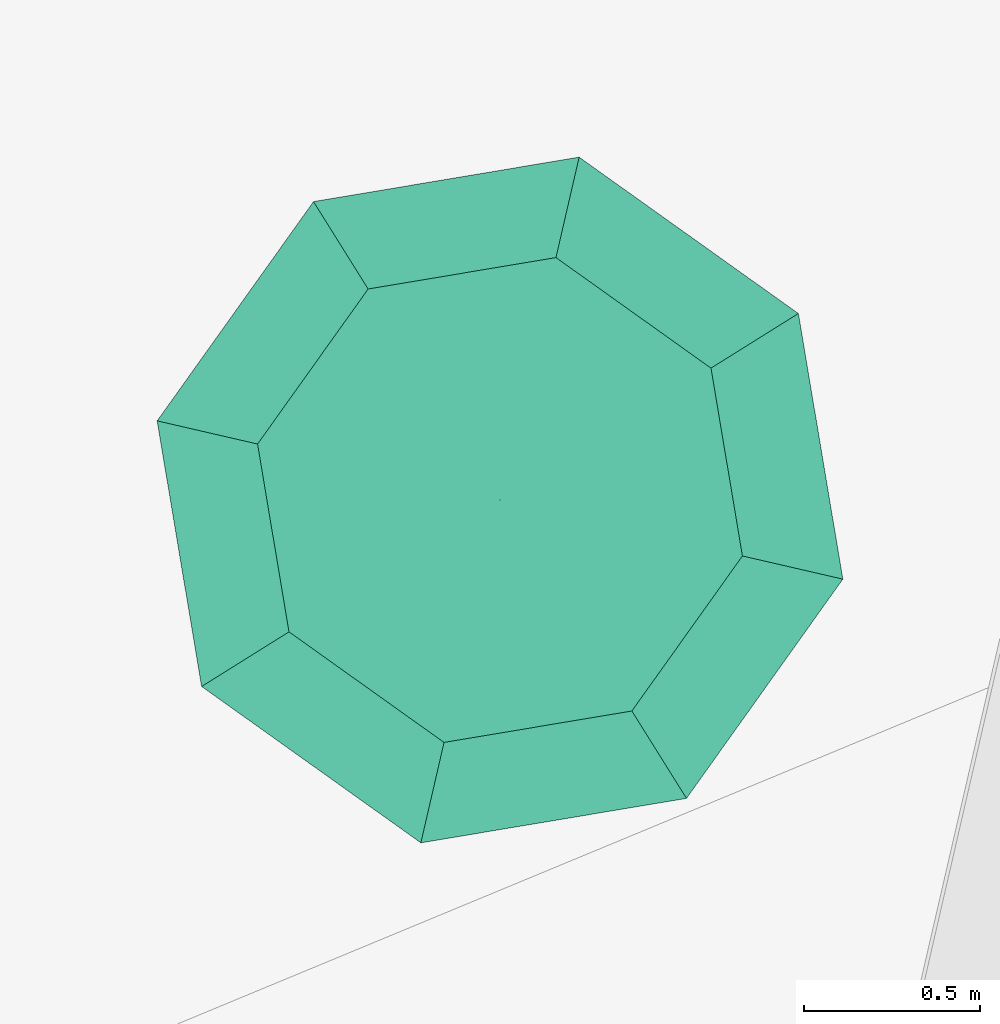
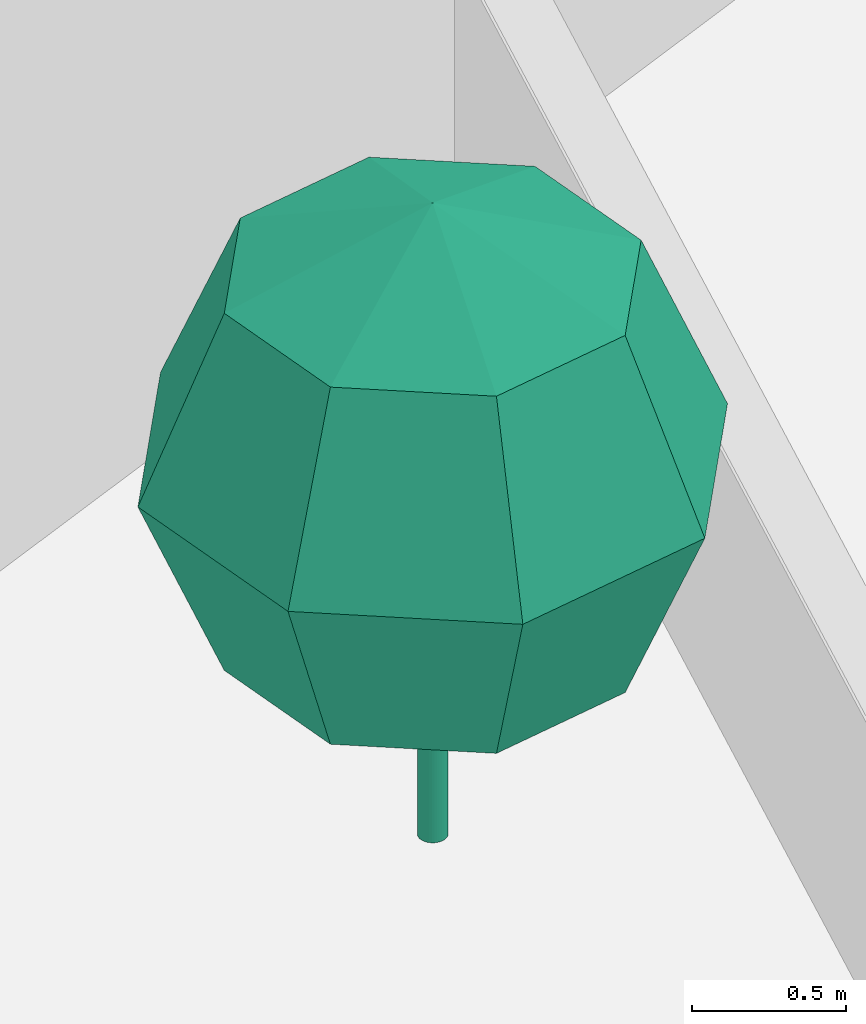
# One storey, part 100 of 119: 1 flow terminal.
"""IFC2X3 building model written with IfcOpenShell, lengths in metres."""

from ifc_helpers import new_model, entity, si_unit, converted_unit, derived_unit, money_unit, direction, frame, origin_with_axes, place, context, subcontext, project, spatial, faceted_brep, source, transform, mapped, type_object, element, save


model = new_model("IFC2X3")

# Units and contexts
model_context = context("Model", 3, precision=1e-05, world=origin_with_axes(), true_north=direction((0.0, 1.0)))
body_context = subcontext(model_context, "Body", "Model", "MODEL_VIEW")
ifc_project = project(units=[si_unit("LENGTHUNIT", "METRE"), si_unit("AREAUNIT", "SQUARE_METRE"), si_unit("VOLUMEUNIT", "CUBIC_METRE"), converted_unit("PLANEANGLEUNIT", "DEGREE", entity("IfcPlaneAngleMeasure", 0.0174532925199), si_unit("PLANEANGLEUNIT", "RADIAN"), dimensions=[0, 0, 0, 0, 0, 0, 0]), si_unit("SOLIDANGLEUNIT", "STERADIAN"), money_unit("EUR"), converted_unit("TIMEUNIT", "Year", entity("IfcTimeMeasure", 31556926.0), si_unit("TIMEUNIT", "SECOND"), dimensions=[0, 0, 1, 0, 0, 0, 0]), si_unit("MASSUNIT", "GRAM", prefix="KILO"), si_unit("THERMODYNAMICTEMPERATUREUNIT", "DEGREE_CELSIUS"), si_unit("LUMINOUSINTENSITYUNIT", "LUMEN"), si_unit("ENERGYUNIT", "JOULE", prefix="MEGA"), derived_unit("THERMALCONDUCTANCEUNIT", [(si_unit("POWERUNIT", "WATT"), 1), (si_unit("LENGTHUNIT", "METRE"), -1), (si_unit("THERMODYNAMICTEMPERATUREUNIT", "KELVIN"), -1)]), derived_unit("SPECIFICHEATCAPACITYUNIT", [(si_unit("ENERGYUNIT", "JOULE"), 1), (si_unit("MASSUNIT", "GRAM", prefix="KILO"), -1), (si_unit("THERMODYNAMICTEMPERATUREUNIT", "KELVIN"), -1)]), derived_unit("MASSDENSITYUNIT", [(si_unit("MASSUNIT", "GRAM", prefix="KILO"), 1), (si_unit("VOLUMEUNIT", "CUBIC_METRE"), -1)])], contexts=[model_context])

# Site, building, storey
site_placement = place(None, origin_with_axes())
site = spatial("IfcSite", under=ifc_project, at=site_placement, Name="Site", CompositionType="ELEMENT")
building_placement = place(site_placement, origin_with_axes())
building = spatial("IfcBuilding", under=site, at=building_placement, Name="Bâtiment", CompositionType="ELEMENT")
storey_placement = place(building_placement, origin_with_axes())
storey = spatial("IfcBuildingStorey", under=building, at=storey_placement, Name="Rez-de-chaussée", CompositionType="ELEMENT", Elevation=0.0)

# Flow terminal
air_terminal_type = type_object("IfcAirTerminalType", Name="Modèle arbre conceptuel 23", PredefinedType="NOTDEFINED")
shared_shape = source(origin_with_axes(), body_context, "Body", "Brep", [
    faceted_brep([(-0.0492403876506, -0.00868240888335, 0.0), (-0.05, 0.0, 0.0), (-0.0492403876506, 0.00868240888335, 0.0), (-0.0469846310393, 0.0171010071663, 0.0), (-0.0433012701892, 0.025, 0.0), (-0.0383022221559, 0.0321393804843, 0.0), (-0.0321393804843, 0.0383022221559, 0.0), (-0.025, 0.0433012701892, 0.0), (-0.0171010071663, 0.0469846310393, 0.0), (-0.00868240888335, 0.0492403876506, 0.0), (0.0, 0.05, 0.0), (0.00868240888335, 0.0492403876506, 0.0), (0.0171010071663, 0.0469846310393, 0.0), (0.025, 0.0433012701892, 0.0), (0.0321393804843, 0.0383022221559, 0.0), (0.0383022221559, 0.0321393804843, 0.0), (0.0433012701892, 0.025, 0.0), (0.0469846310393, 0.0171010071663, 0.0), (0.0492403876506, 0.00868240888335, 0.0), (0.05, 0.0, 0.0), (0.0492403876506, -0.00868240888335, 0.0), (0.0469846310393, -0.0171010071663, 0.0), (0.0433012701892, -0.025, 0.0), (0.0383022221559, -0.0321393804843, 0.0), (0.0321393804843, -0.0383022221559, 0.0), (0.025, -0.0433012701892, 0.0), (0.0171010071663, -0.0469846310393, 0.0), (0.00868240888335, -0.0492403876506, 0.0), (0.0, -0.05, 0.0), (-0.00868240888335, -0.0492403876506, 0.0), (-0.0171010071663, -0.0469846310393, 0.0), (-0.025, -0.0433012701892, 0.0), (-0.0321393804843, -0.0383022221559, 0.0), (-0.0383022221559, -0.0321393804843, 0.0), (-0.0433012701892, -0.025, 0.0), (-0.0469846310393, -0.0171010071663, 0.0), (-0.0492403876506, -0.00868240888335, 0.5), (-0.05, 0.0, 0.5), (-0.0492403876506, 0.00868240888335, 0.5), (-0.0469846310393, 0.0171010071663, 0.5), (-0.0433012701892, 0.025, 0.5), (-0.0383022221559, 0.0321393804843, 0.5), (-0.0321393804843, 0.0383022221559, 0.5), (-0.025, 0.0433012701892, 0.5), (-0.0171010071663, 0.0469846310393, 0.5), (-0.00868240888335, 0.0492403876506, 0.5), (0.0, 0.05, 0.5), (0.00868240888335, 0.0492403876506, 0.5), (0.0171010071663, 0.0469846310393, 0.5), (0.025, 0.0433012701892, 0.5), (0.0321393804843, 0.0383022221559, 0.5), (0.0383022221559, 0.0321393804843, 0.5), (0.0433012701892, 0.025, 0.5), (0.0469846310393, 0.0171010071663, 0.5), (0.0492403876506, 0.00868240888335, 0.5), (0.05, 0.0, 0.5), (0.0492403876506, -0.00868240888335, 0.5), (0.0469846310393, -0.0171010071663, 0.5), (0.0433012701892, -0.025, 0.5), (0.0383022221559, -0.0321393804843, 0.5), (0.0321393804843, -0.0383022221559, 0.5), (0.025, -0.0433012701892, 0.5), (0.0171010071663, -0.0469846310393, 0.5), (0.00868240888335, -0.0492403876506, 0.5), (0.0, -0.05, 0.5), (-0.00868240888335, -0.0492403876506, 0.5), (-0.0171010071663, -0.0469846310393, 0.5), (-0.025, -0.0433012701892, 0.5), (-0.0321393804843, -0.0383022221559, 0.5), (-0.0383022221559, -0.0321393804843, 0.5), (-0.0433012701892, -0.025, 0.5), (-0.0469846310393, -0.0171010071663, 0.5)], [[[0, 1, 2, 3, 4, 5, 6, 7, 8, 9, 10, 11, 12, 13, 14, 15, 16, 17, 18, 19, 20, 21, 22, 23, 24, 25, 26, 27, 28, 29, 30, 31, 32, 33, 34, 35]], [[0, 36, 37, 1]], [[1, 37, 38, 2]], [[2, 38, 39, 3]], [[3, 39, 40, 4]], [[4, 40, 41, 5]], [[5, 41, 42, 6]], [[6, 42, 43, 7]], [[7, 43, 44, 8]], [[8, 44, 45, 9]], [[9, 45, 46, 10]], [[10, 46, 47, 11]], [[11, 47, 48, 12]], [[12, 48, 49, 13]], [[13, 49, 50, 14]], [[14, 50, 51, 15]], [[15, 51, 52, 16]], [[16, 52, 53, 17]], [[17, 53, 54, 18]], [[18, 54, 55, 19]], [[19, 55, 56, 20]], [[20, 56, 57, 21]], [[21, 57, 58, 22]], [[22, 58, 59, 23]], [[23, 59, 60, 24]], [[24, 60, 61, 25]], [[25, 61, 62, 26]], [[26, 62, 63, 27]], [[27, 63, 64, 28]], [[28, 64, 65, 29]], [[29, 65, 66, 30]], [[30, 66, 67, 31]], [[31, 67, 68, 32]], [[32, 68, 69, 33]], [[33, 69, 70, 34]], [[34, 70, 71, 35]], [[35, 71, 36, 0]], [[36, 71, 70, 69, 68, 67, 66, 65, 64, 63, 62, 61, 60, 59, 58, 57, 56, 55, 54, 53, 52, 51, 50, 49, 48, 47, 46, 45, 44, 43, 42, 41, 40, 39, 38, 37]]]),
    faceted_brep([(-0.0492403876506, -0.00868240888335, 0.5), (-0.05, 0.0, 0.5), (-0.0492403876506, 0.00868240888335, 0.5), (-0.0469846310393, 0.0171010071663, 0.5), (-0.0433012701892, 0.025, 0.5), (-0.0383022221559, 0.0321393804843, 0.5), (-0.0321393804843, 0.0383022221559, 0.5), (-0.025, 0.0433012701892, 0.5), (-0.0171010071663, 0.0469846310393, 0.5), (-0.00868240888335, 0.0492403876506, 0.5), (0.0, 0.05, 0.5), (0.00868240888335, 0.0492403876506, 0.5), (0.0171010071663, 0.0469846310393, 0.5), (0.025, 0.0433012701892, 0.5), (0.0321393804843, 0.0383022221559, 0.5), (0.0383022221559, 0.0321393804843, 0.5), (0.0433012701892, 0.025, 0.5), (0.0469846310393, 0.0171010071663, 0.5), (0.0492403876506, 0.00868240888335, 0.5), (0.05, 0.0, 0.5), (0.0492403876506, -0.00868240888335, 0.5), (0.0469846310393, -0.0171010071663, 0.5), (0.0433012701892, -0.025, 0.5), (0.0383022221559, -0.0321393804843, 0.5), (0.0321393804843, -0.0383022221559, 0.5), (0.025, -0.0433012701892, 0.5), (0.0171010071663, -0.0469846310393, 0.5), (0.00868240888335, -0.0492403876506, 0.5), (0.0, -0.05, 0.5), (-0.00868240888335, -0.0492403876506, 0.5), (-0.0171010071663, -0.0469846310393, 0.5), (-0.025, -0.0433012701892, 0.5), (-0.0321393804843, -0.0383022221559, 0.5), (-0.0383022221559, -0.0321393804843, 0.5), (-0.0433012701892, -0.025, 0.5), (-0.0469846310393, -0.0171010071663, 0.5), (0.0, 0.0, 1.5)], [[[0, 1, 2, 3, 4, 5, 6, 7, 8, 9, 10, 11, 12, 13, 14, 15, 16, 17, 18, 19, 20, 21, 22, 23, 24, 25, 26, 27, 28, 29, 30, 31, 32, 33, 34, 35]], [[0, 36, 1]], [[1, 36, 2]], [[2, 36, 3]], [[3, 36, 4]], [[4, 36, 5]], [[5, 36, 6]], [[6, 36, 7]], [[7, 36, 8]], [[8, 36, 9]], [[9, 36, 10]], [[10, 36, 11]], [[11, 36, 12]], [[12, 36, 13]], [[13, 36, 14]], [[14, 36, 15]], [[15, 36, 16]], [[16, 36, 17]], [[17, 36, 18]], [[18, 36, 19]], [[19, 36, 20]], [[20, 36, 21]], [[21, 36, 22]], [[22, 36, 23]], [[23, 36, 24]], [[24, 36, 25]], [[25, 36, 26]], [[26, 36, 27]], [[27, 36, 28]], [[28, 36, 29]], [[29, 36, 30]], [[30, 36, 31]], [[31, 36, 32]], [[32, 36, 33]], [[33, 36, 34]], [[34, 36, 35]], [[35, 36, 0]]]),
    faceted_brep([(-0.707106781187, 0.0, 2.20710678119), (-0.5, -0.5, 2.20710678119), (0.0, 0.0, 2.5), (-1.0, 0.0, 1.5), (-0.707106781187, -0.707106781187, 1.5), (0.0, -0.707106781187, 2.20710678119), (-0.5, 0.5, 2.20710678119), (-0.707106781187, 0.0, 0.792893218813), (-0.5, -0.5, 0.792893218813), (0.0, -1.0, 1.5), (-0.707106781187, 0.707106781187, 1.5), (0.5, -0.5, 2.20710678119), (0.0, 0.707106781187, 2.20710678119), (0.0, 0.0, 0.5), (0.0, -0.707106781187, 0.792893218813), (-0.5, 0.5, 0.792893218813), (0.707106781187, -0.707106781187, 1.5), (0.0, 1.0, 1.5), (0.707106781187, 0.0, 2.20710678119), (0.5, 0.5, 2.20710678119), (0.5, -0.5, 0.792893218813), (0.0, 0.707106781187, 0.792893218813), (1.0, 0.0, 1.5), (0.707106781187, 0.707106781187, 1.5), (0.707106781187, 0.0, 0.792893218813), (0.5, 0.5, 0.792893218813)], [[[0, 1, 2]], [[3, 4, 1, 0]], [[1, 5, 2]], [[6, 0, 2]], [[7, 8, 4, 3]], [[4, 9, 5, 1]], [[10, 3, 0, 6]], [[5, 11, 2]], [[12, 6, 2]], [[13, 8, 7]], [[8, 14, 9, 4]], [[15, 7, 3, 10]], [[9, 16, 11, 5]], [[17, 10, 6, 12]], [[11, 18, 2]], [[19, 12, 2]], [[13, 14, 8]], [[13, 7, 15]], [[14, 20, 16, 9]], [[21, 15, 10, 17]], [[16, 22, 18, 11]], [[23, 17, 12, 19]], [[18, 19, 2]], [[13, 20, 14]], [[13, 15, 21]], [[20, 24, 22, 16]], [[25, 21, 17, 23]], [[22, 23, 19, 18]], [[13, 24, 20]], [[13, 21, 25]], [[24, 25, 23, 22]], [[13, 25, 24]]]),
])
flow_terminal_placement = place(storey_placement, frame((-20.7026695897, 5.81523669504, 1.06489449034), z_axis=(0.0, 0.0, 1.0), x_axis=(-0.224876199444, -0.974387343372, 0.0)))
element("IfcFlowTerminal", 1, at=flow_terminal_placement, inside=storey, type_object=air_terminal_type, ObjectType="AIR TERMINAL", context=body_context, shape_type="MappedRepresentation", body=[
    mapped(shared_shape, transform((0.0, 0.0, 0.0))),
])

save(model, "model.ifc")
